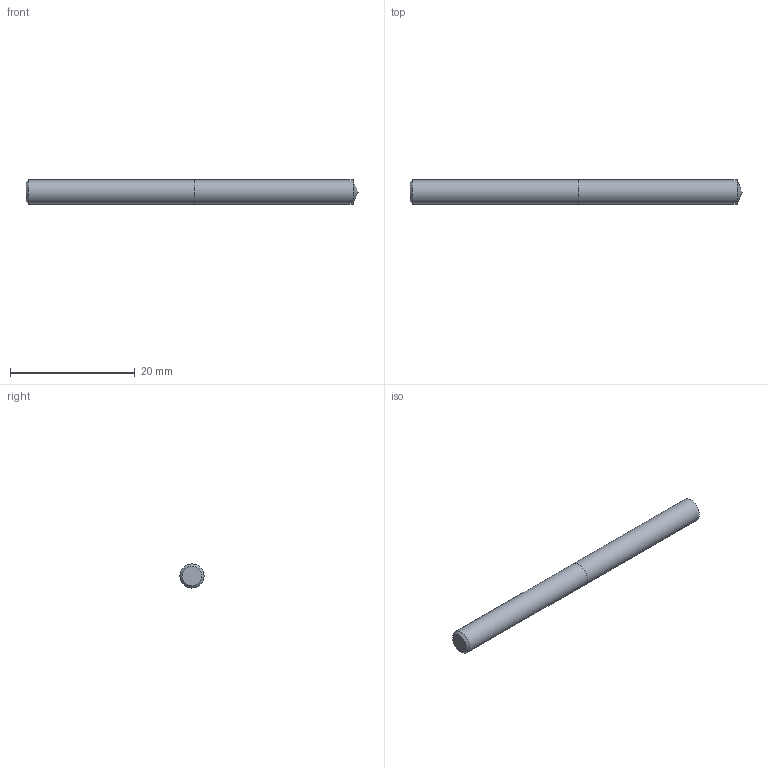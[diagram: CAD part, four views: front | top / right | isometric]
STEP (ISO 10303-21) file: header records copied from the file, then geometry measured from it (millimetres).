
FILE_DESCRIPTION (( 'STEP AP214' ), '1' );
FILE_NAME ('03-2366.STEP', '2022-06-03T06:47:59', ( 'USER' ), ( '' ), 'SwSTEP 2.0', 'SolidWorks 2018', '' );
FILE_SCHEMA (( 'AUTOMOTIVE_DESIGN' ));
Length unit declared in the file: inch
Products named in the file (1): 03-2366
Bounding box: 53.19 x 3.86 x 3.86 mm (x, y, z)
Volume: 615.6 mm3; surface area: 680.3 mm2
Topology: 2 solids, 2 shells, 7 faces, 11 edges, 7 vertices
Faces by surface type: plane 3, cylinder 2, cone 2
Full cylindrical faces by diameter (mm): 3.861 x2
Entity records: 214 total; most frequent: DIRECTION 26, CARTESIAN_POINT 18, AXIS2_PLACEMENT_3D 13, ORIENTED_EDGE 10, EDGE_LOOP 10, FACE_OUTER_BOUND 9, LENGTH_MEASURE_WITH_UNIT 7, DIMENSIONAL_EXPONENTS 7
